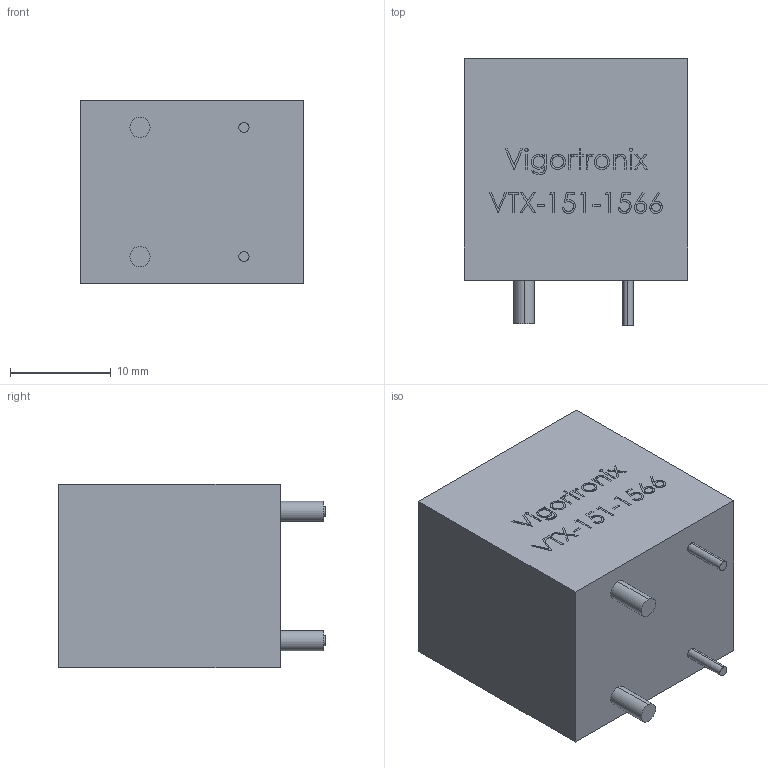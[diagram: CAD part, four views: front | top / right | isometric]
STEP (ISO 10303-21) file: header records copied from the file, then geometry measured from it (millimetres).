
FILE_DESCRIPTION (( 'STEP AP214' ), '1' );
FILE_NAME ('VTX-151-1566.STEP', '2022-05-27T15:02:17', ( '' ), ( '' ), 'SwSTEP 2.0', 'SolidWorks 2022', '' );
FILE_SCHEMA (( 'AUTOMOTIVE_DESIGN' ));
Length unit declared in the file: millimetre
Products named in the file (1): VTX-151-1566
Bounding box: 22.2 x 26.5 x 18.21 mm (x, y, z)
Volume: 8921.8 mm3; surface area: 2679.3 mm2
Topology: 1 solids, 1 shells, 327 faces, 858 edges, 572 vertices
Faces by surface type: plane 208, bspline 111, cylinder 8
Entity records: 19049 total; most frequent: CARTESIAN_POINT 8085, ORIENTED_EDGE 1716, DIRECTION 1086, EDGE_CURVE 858, LINE 620, VECTOR 620, VERTEX_POINT 572, EDGE_LOOP 366
